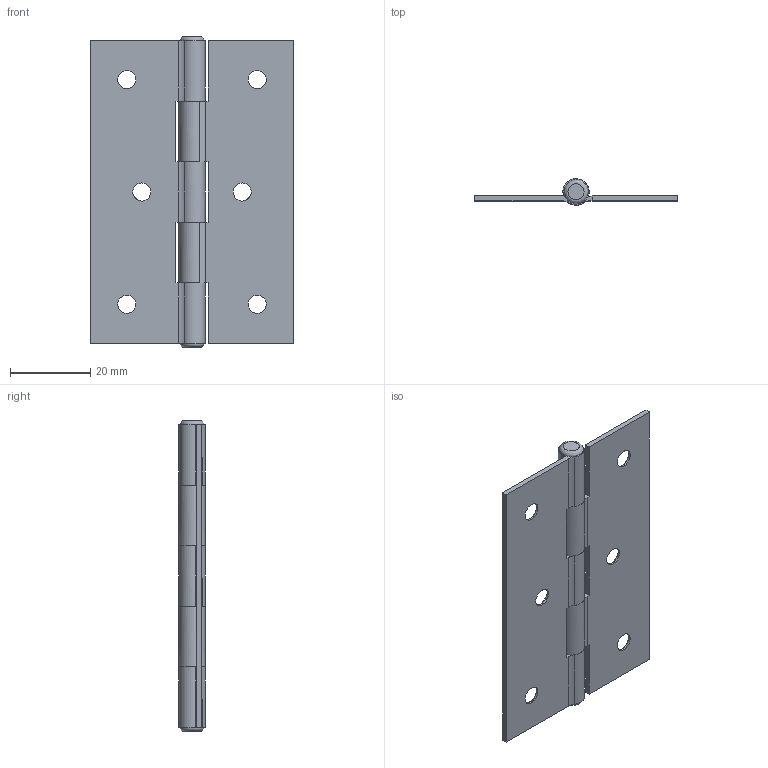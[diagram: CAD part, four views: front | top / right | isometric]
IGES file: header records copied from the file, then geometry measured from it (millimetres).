
Global section: file name: DR_HH7550-12; native system: Autodesk Inventor 2015; preprocessor: unknown; author: user; date: 20170816.083053; units: millimetre
Bounding box: 50.5 x 6.5 x 77.5 mm (x, y, z)
Volume: 6338.6 mm3; surface area: 10679.2 mm2
Topology: 3 solids, 3 shells, 67 faces, 189 edges, 130 vertices
Faces by surface type: bspline 67
